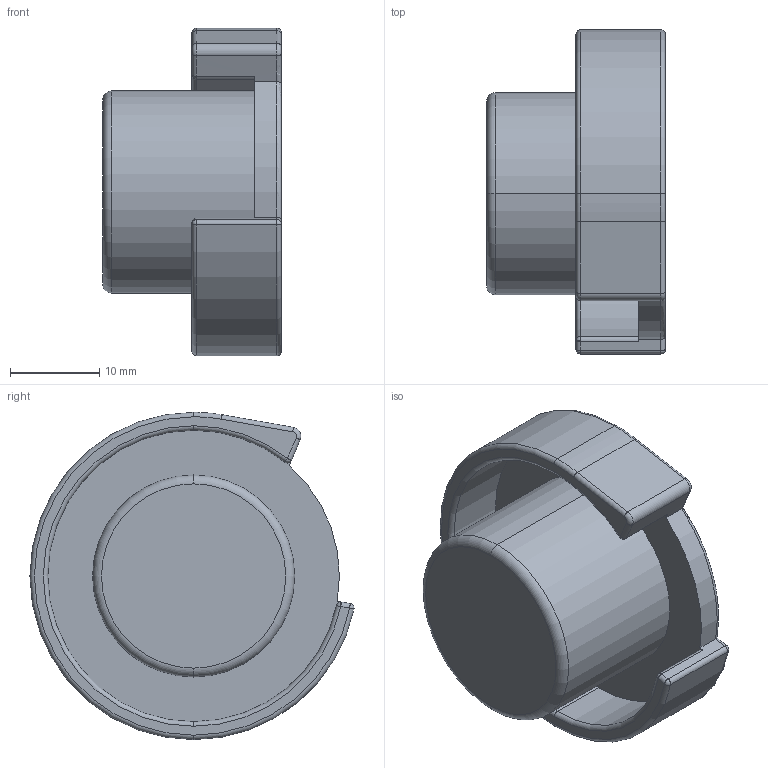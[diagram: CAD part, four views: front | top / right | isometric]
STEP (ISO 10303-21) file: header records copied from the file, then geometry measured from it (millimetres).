
FILE_DESCRIPTION (( 'STEP AP203' ), '1' );
FILE_NAME ('BOTTOM PLUG-1.STEP', '2025-05-22T09:02:48', ( 'user' ), ( '' ), 'SwSTEP 2.0', 'SolidWorks 2024', '' );
FILE_SCHEMA (( 'CONFIG_CONTROL_DESIGN' ));
Length unit declared in the file: millimetre
Products named in the file (1): BOTTOM PLUG-1
Bounding box: 20 x 36.24 x 36.6 mm (x, y, z)
Volume: 11169.3 mm3; surface area: 4811.9 mm2
Topology: 1 solids, 1 shells, 45 faces, 103 edges, 58 vertices
Faces by surface type: cylinder 18, torus 16, plane 6, sphere 5
Entity records: 1315 total; most frequent: DIRECTION 256, CARTESIAN_POINT 212, ORIENTED_EDGE 194, AXIS2_PLACEMENT_3D 115, EDGE_CURVE 97, CIRCLE 69, VERTEX_POINT 55, EDGE_LOOP 46
